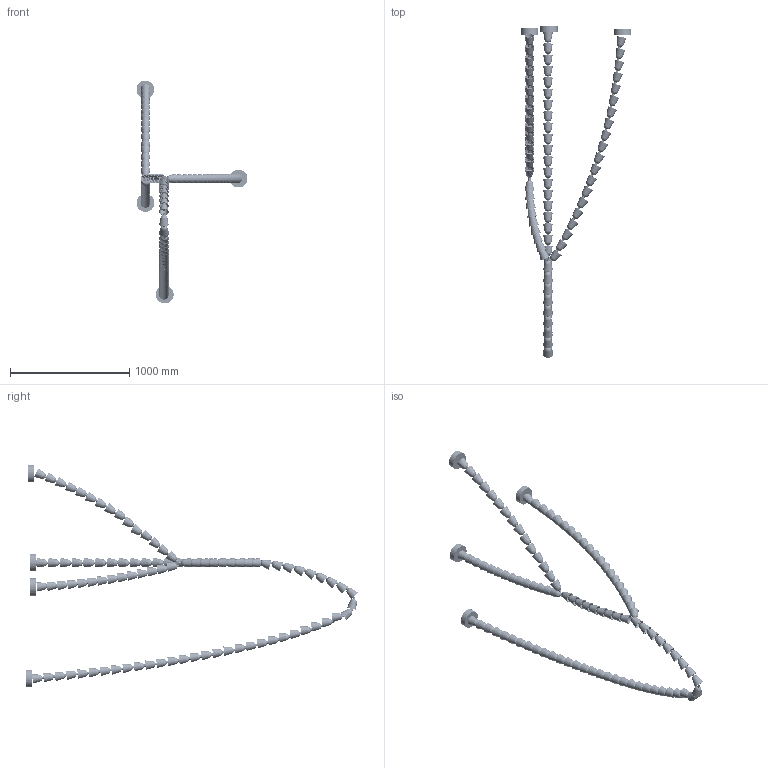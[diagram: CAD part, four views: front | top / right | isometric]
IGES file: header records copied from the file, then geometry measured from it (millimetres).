
Start section: SolidWorks IGES file using analytic representation for surfaces
Global section: file name: F:\李明祥\3D\6月\新建文件夹\Gabriel Chandelier-98.IGS; native system: SolidWorks 2022; preprocessor: SolidWorks 2022; author: MyPC; date: 230624.091709; units: millimetre
Bounding box: 930.16 x 2783.44 x 1868.8 mm (x, y, z)
Surface area: 4228793.2 mm2 (no closed solid volume)
Topology: 0 solids, 0 shells, 1871 faces, 30576 edges, 30382 vertices
Faces by surface type: revolution 1374, bspline 497
